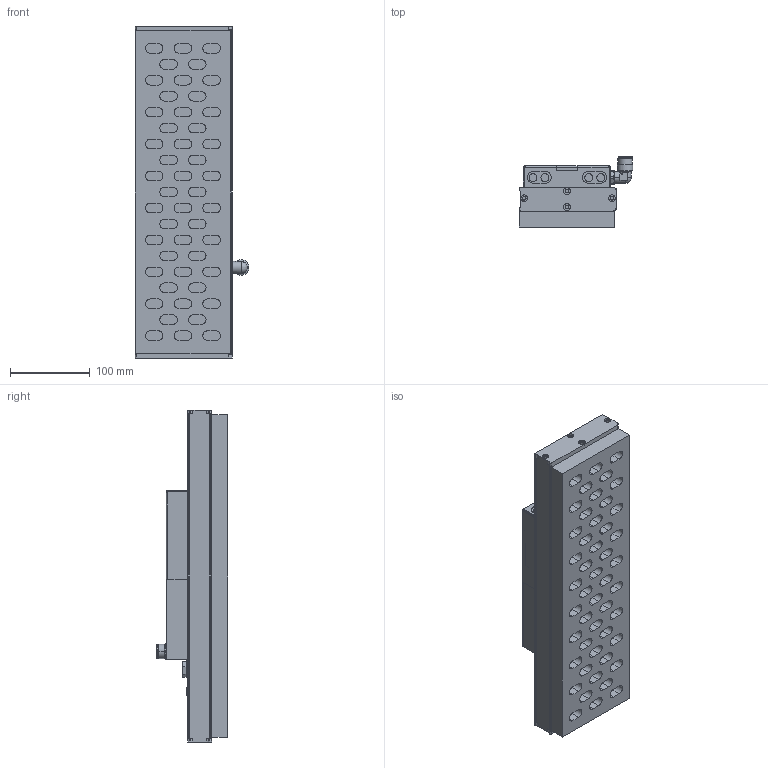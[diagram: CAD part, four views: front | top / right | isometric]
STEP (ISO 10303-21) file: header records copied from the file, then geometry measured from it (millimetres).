
FILE_DESCRIPTION (( 'STEP AP214' ), '1' );
FILE_NAME ('310 400 011.STEP', '2018-01-10T07:55:19', ( '' ), ( '' ), 'SwSTEP 2.0', 'SolidWorks 2017', '' );
FILE_SCHEMA (( 'AUTOMOTIVE_DESIGN' ));
Length unit declared in the file: millimetre
Products named in the file (1): 310 400 011
Bounding box: 142.75 x 89 x 416 mm (x, y, z)
Volume: 2854319.9 mm3; surface area: 237465.1 mm2
Topology: 1 solids, 2 shells, 684 faces, 1627 edges, 1036 vertices
Faces by surface type: plane 330, cylinder 270, torus 39, cone 36, bspline 6, sphere 3
Entity records: 27710 total; most frequent: CARTESIAN_POINT 3958, DIRECTION 3577, ORIENTED_EDGE 3244, EDGE_CURVE 1622, AXIS2_PLACEMENT_3D 1344, VERTEX_POINT 1033, LINE 889, VECTOR 889
